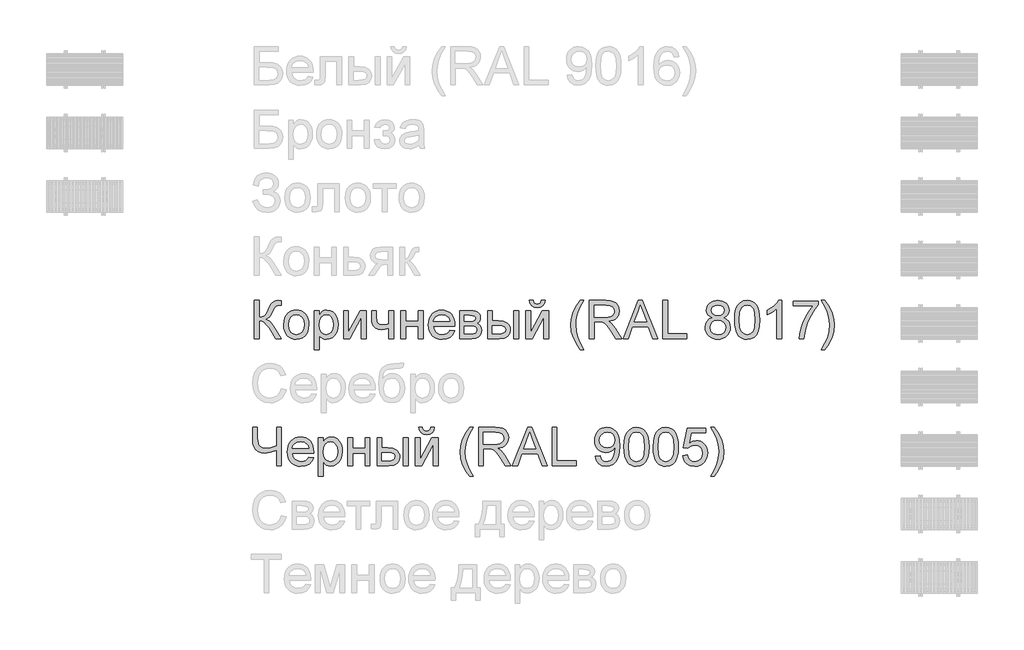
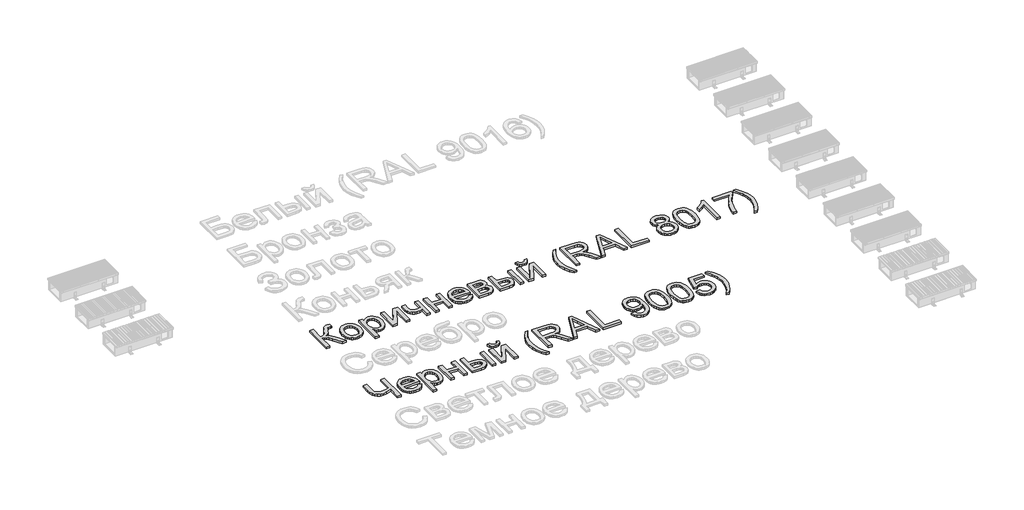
# One storey, part 6 of 12: 2 proxies.
"""IFC4 building model written with IfcOpenShell, lengths in millimetres."""

import ifcopenshell
import ifcopenshell.guid

model = None  # the IFC model being written
_history = None  # IfcOwnerHistory: only IFC2X3 demands one
_inside = {}  # id of a spatial element -> (the spatial element, [elements in it])
_under = {}  # id of a project, library or spatial element -> (it, [spatial elements below it])
_declared = {}  # id of a project -> (the project, [libraries it declares])
_typed = {}  # id of a type object -> (the type object, [elements of that type])
_made_of = {}  # id of a material, layer set ... -> (it, [elements and type objects made of it])


def new_model(schema):
    """Start an empty IFC model of exactly this schema.

    Asked for "IFC4X3", IfcOpenShell would pick the latest addendum, in which some entities
    have other attributes; the version numbers below select the first issue.
    IFC2X3 requires an IfcOwnerHistory on every rooted entity: one is made here for all.
    """
    global model, _history
    if schema == "IFC4X3":
        model = ifcopenshell.file(schema_version=(4, 3, 0, 0))
    else:
        model = ifcopenshell.file(schema=schema)
    _inside.clear()
    _under.clear()
    _declared.clear()
    _typed.clear()
    _made_of.clear()
    _history = None
    if model.schema == "IFC2X3":
        org = make("IfcOrganization", Name="unknown")
        user = make(
            "IfcPersonAndOrganization",
            ThePerson=make("IfcPerson", FamilyName="unknown"),
            TheOrganization=org,
        )
        app = make(
            "IfcApplication",
            ApplicationDeveloper=org,
            Version="unknown",
            ApplicationFullName="unknown",
            ApplicationIdentifier="unknown",
        )
        _history = make(
            "IfcOwnerHistory",
            OwningUser=user,
            OwningApplication=app,
            ChangeAction="ADDED",
            CreationDate=0,
        )
    return model


def make(cls, **values):
    """One entity of the class cls with the attributes given. An attribute that is None is left unset."""
    return model.create_entity(
        cls, **{name: value for name, value in values.items() if value is not None}
    )


def rooted(cls, **values):
    """An entity with a GlobalId (a new one), such as an element, a storey or a relation."""
    return make(cls, GlobalId=ifcopenshell.guid.new(), OwnerHistory=_history, **values)


def si_unit(unit_type, name, prefix=None):
    """IfcSIUnit, for example si_unit("LENGTHUNIT", "METRE", prefix="MILLI")."""
    return make("IfcSIUnit", UnitType=unit_type, Prefix=prefix, Name=name)


def assignment(units):
    """IfcUnitAssignment: the units of a project."""
    return None if units is None else make("IfcUnitAssignment", Units=units)


def point(xyz):
    """IfcCartesianPoint."""
    return None if xyz is None else make("IfcCartesianPoint", Coordinates=xyz)


def direction(xyz):
    """IfcDirection."""
    return None if xyz is None else make("IfcDirection", DirectionRatios=xyz)


def frame(location, z_axis=None, x_axis=None):
    """IfcAxis2Placement3D, a coordinate frame: its origin and axes. An axis left out is left unset."""
    return make(
        "IfcAxis2Placement3D",
        Location=point(location),
        Axis=direction(z_axis),
        RefDirection=direction(x_axis),
    )


def origin():
    """The frame at (0, 0, 0) with its axes left unset."""
    return frame((0.0, 0.0, 0.0))


def origin_with_axes():
    """The frame at (0, 0, 0) with the z axis (0, 0, 1) and the x axis (1, 0, 0) written out."""
    return frame((0.0, 0.0, 0.0), z_axis=(0.0, 0.0, 1.0), x_axis=(1.0, 0.0, 0.0))


def place(relative_to, where):
    """IfcLocalPlacement: puts the frame where relative to a parent placement (None: the world)."""
    return make(
        "IfcLocalPlacement", PlacementRelTo=relative_to, RelativePlacement=where
    )


def context(
    kind, dimensions, precision=None, world=None, true_north=None, identifier=None
):
    """IfcGeometricRepresentationContext, for example the 3D "Model" context."""
    return make(
        "IfcGeometricRepresentationContext",
        ContextIdentifier=identifier,
        ContextType=kind,
        CoordinateSpaceDimension=dimensions,
        Precision=precision,
        WorldCoordinateSystem=world,
        TrueNorth=true_north,
    )


def project(units=None, contexts=None):
    """IfcProject with its units and contexts."""
    return rooted(
        "IfcProject",
        Name="project",
        RepresentationContexts=contexts,
        UnitsInContext=assignment(units),
    )


def spatial(cls, under=None, at=None, **own):
    """A site, building, storey or space (cls), placed at a placement, below another one or the project."""
    s = rooted(cls, ObjectPlacement=at, **own)
    if under is not None:
        _under.setdefault(under.id(), (under, []))[1].append(s)
    return s


def polyline(points):
    """IfcPolyline through the points."""
    return make("IfcPolyline", Points=[point(p) for p in points])


def outline(outer, holes=None, kind="AREA"):
    """IfcArbitraryClosedProfileDef: a profile drawn as a closed curve; with holes, ...WithVoids."""
    if holes is None:
        return make("IfcArbitraryClosedProfileDef", ProfileType=kind, OuterCurve=outer)
    return make(
        "IfcArbitraryProfileDefWithVoids",
        ProfileType=kind,
        OuterCurve=outer,
        InnerCurves=holes,
    )


def extrude(swept, where, along, depth):
    """IfcExtrudedAreaSolid: the profile swept, set in the frame where, extruded along a direction by depth."""
    return make(
        "IfcExtrudedAreaSolid",
        SweptArea=swept,
        Position=where,
        ExtrudedDirection=direction(along),
        Depth=depth,
    )


def shape(context_of_items, identifier, shape_type, items):
    """IfcShapeRepresentation: the items that make up one representation, for example the "Body"."""
    return make(
        "IfcShapeRepresentation",
        ContextOfItems=context_of_items,
        RepresentationIdentifier=identifier,
        RepresentationType=shape_type,
        Items=items,
    )


def made_of(thing, what):
    """Note that an element or type object is made of a material, layer set ...; save() writes the relation."""
    if what is not None:
        _made_of.setdefault(what.id(), (what, []))[1].append(thing)
    return thing


def element(
    cls,
    number,
    at=None,
    inside=None,
    cuts=None,
    type_object=None,
    material=None,
    context=None,
    identifier="Body",
    shape_type=None,
    held_by="IfcProductDefinitionShape",
    body=None,
    shapes=None,
    **own,
):
    """One element of the class cls, such as IfcWall. Its Tag is "e" and its number.

    at: its placement. inside: the storey or other place that contains it. cuts: it is an
    opening in that element (IfcRelVoidsElement). A single representation is given by context,
    identifier, shape_type and body (its items); several are given by shapes. held_by: the class
    of the entity that holds the representations. save() writes the other relations.
    """
    e = rooted(cls, Tag="e%d" % number, ObjectPlacement=at, **own)
    if body is not None:
        shapes = [shape(context, identifier, shape_type, body)]
    if shapes is not None:
        e.Representation = make(held_by, Representations=shapes)
    if inside is not None:
        _inside.setdefault(inside.id(), (inside, []))[1].append(e)
    if cuts is not None:
        rooted(
            "IfcRelVoidsElement", RelatingBuildingElement=cuts, RelatedOpeningElement=e
        )
    if type_object is not None:
        _typed.setdefault(type_object.id(), (type_object, []))[1].append(e)
    return made_of(e, material)


def aggregate(whole, parts):
    """IfcRelAggregates: a whole, such as a stair, and the parts it consists of."""
    return rooted("IfcRelAggregates", RelatingObject=whole, RelatedObjects=parts)


def save(model, path):
    """Write the relations noted so far, then the file.

    IfcRelAggregates (storeys below a building ...), IfcRelContainedInSpatialStructure (elements
    in a storey), IfcRelDefinesByType, IfcRelAssociatesMaterial and IfcRelDeclares: one each for
    every whole, place, type object, material and project.
    """
    for whole, parts in _under.values():
        aggregate(whole, parts)
    for where, things in _inside.values():
        rooted(
            "IfcRelContainedInSpatialStructure",
            RelatedElements=things,
            RelatingStructure=where,
        )
    for kind, things in _typed.values():
        rooted("IfcRelDefinesByType", RelatedObjects=things, RelatingType=kind)
    for what, things in _made_of.values():
        rooted("IfcRelAssociatesMaterial", RelatedObjects=things, RelatingMaterial=what)
    for by, libraries in _declared.values():
        rooted("IfcRelDeclares", RelatingContext=by, RelatedDefinitions=libraries)
    model.write(path)


model = new_model("IFC4")

# Units and contexts
model_context = context("Model", 3, world=origin())
ifc_project = project(units=[si_unit("LENGTHUNIT", "METRE", prefix="MILLI")], contexts=[model_context])

# Site, building, storey
site = spatial("IfcSite", under=ifc_project)
building = spatial("IfcBuilding", under=site)
storey = spatial("IfcBuildingStorey", under=building, Name="Уровень 1", Elevation=0.0)

# Proxies
placement = place(None, origin())
element("IfcBuildingElementProxy", 1, Name="300", ObjectType="300", at=placement, inside=storey, context=model_context, shape_type="SweptSolid", body=[
    extrude(outline(polyline([(7102.1636245, -14613.7438159), (7139.8347408, -14613.7438159), (7139.8347408, -14745.592723), (7165.3381601, -14743.1003225), (7181.9572292, -14735.6231209), (7195.3941191, -14718.0291645), (7211.3510007, -14685.1864994), (7232.1363334, -14643.0640109), (7242.1611178, -14631.650472), (7255.6807811, -14622.2051018), (7271.7296331, -14615.8591374), (7289.3419836, -14613.7438159), (7314.0636537, -14614.1852743), (7314.0636537, -14651.8563906), (7305.7495206, -14651.6356614), (7297.4353875, -14651.4149322), (7280.181722, -14653.6774065), (7268.0048279, -14660.4648293), (7257.5201911, -14674.7202566), (7245.6376026, -14699.2395916), (7231.0602786, -14729.7737972), (7218.966158, -14746.4756398), (7192.9569009, -14762.0738364), (7207.5480205, -14768.2818451), (7222.0379726, -14779.1067728), (7250.7143741, -14814.6073853), (7314.0636537, -14915.1127464), (7270.3592727, -14915.1127464), (7216.7956542, -14830.2055819), (7196.111489, -14802.9731172), (7179.0877497, -14785.8758015), (7161.6777343, -14776.8534955), (7139.8347408, -14773.8460602), (7139.8347408, -14915.1127464), (7102.1636245, -14915.1127464), (7102.1636245, -14613.7438159)])), origin_with_axes(), (0.0, 0.0, 1.0), 20.0),
    extrude(outline(polyline([(7332.8992119, -14804.4538422), (7334.9363584, -14775.7912363), (7341.0477981, -14751.0925588), (7351.2335308, -14730.3578099), (7365.4935566, -14713.5869894), (7379.8501515, -14702.8678278), (7395.6966684, -14695.2112838), (7413.0331075, -14690.6173573), (7431.8594686, -14689.0860485), (7452.642502, -14690.9507504), (7471.4343742, -14696.544856), (7488.2350851, -14705.8683653), (7503.0446346, -14718.9212784), (7515.1318574, -14735.2621367), (7523.765588, -14754.449482), (7528.9458264, -14776.4833143), (7530.6725725, -14801.3636335), (7527.6191519, -14839.4210259), (7518.4588902, -14868.391733), (7503.4585019, -14890.0875737), (7482.8847013, -14906.3203667), (7458.4481398, -14916.4463186), (7431.8594686, -14919.8216359), (7410.7729325, -14917.9638318), (7391.8063163, -14912.3904196), (7374.9596202, -14903.1013992), (7360.2328441, -14890.0967707), (7348.27438, -14873.5972632), (7339.7326199, -14853.823606), (7334.6075639, -14830.775799), (7332.8992119, -14804.4538422)]), holes=[polyline([(7370.5703282, -14804.3802658), (7374.9297298, -14838.4737297), (7388.0079347, -14862.7631385), (7407.6896215, -14877.3036743), (7431.8594686, -14882.1505196), (7455.9189511, -14877.2760832), (7475.5638496, -14862.6527739), (7488.6420545, -14838.0414684), (7493.0014562, -14803.2030434), (7488.6144634, -14770.1028609), (7475.453485, -14746.144546), (7455.7809953, -14731.6040101), (7431.8594686, -14726.7571648), (7407.6896215, -14731.585616), (7388.0079347, -14746.0709696), (7374.9297298, -14770.305196), (7370.5703282, -14804.3802658)])]), origin_with_axes(), (0.0, 0.0, 1.0), 20.0),
    extrude(outline(polyline([(7573.0525783, -14999.8727581), (7573.0525783, -14693.7949381), (7610.7236946, -14693.7949381), (7610.7236946, -14730.7302904), (7623.0109533, -14712.5109346), (7636.7697399, -14699.497109), (7652.8093949, -14691.6888137), (7671.9392586, -14689.0860485), (7697.4150868, -14692.7280803), (7719.6903416, -14703.6541756), (7737.826924, -14721.2021467), (7750.8867348, -14744.7098062), (7758.7778036, -14772.4665028), (7761.4081598, -14802.7615851), (7758.4375127, -14834.9788508), (7749.5255714, -14863.7932081), (7734.9574444, -14887.7423259), (7715.0182403, -14905.3638735), (7691.7956893, -14916.2071953), (7667.3775219, -14919.8216359), (7650.059477, -14917.4028118), (7634.5992361, -14910.1463394), (7621.3646813, -14899.192653), (7610.7236946, -14885.6821868), (7610.7236946, -14999.8727581), (7573.0525783, -14999.8727581)]), holes=[polyline([(7610.7236946, -14806.2196758), (7614.7979877, -14839.991243), (7627.020867, -14863.6092671), (7645.0562818, -14877.5152065), (7666.5681815, -14882.1505196), (7688.4295691, -14877.3496596), (7706.9248364, -14862.9470795), (7719.5339917, -14838.4645327), (7723.7370435, -14803.4237726), (7719.6351593, -14769.8361465), (7707.3295066, -14745.8870286), (7689.3216829, -14731.5396308), (7668.1132859, -14726.7571648), (7646.8221154, -14731.8431334), (7628.124513, -14747.1010392), (7615.0738992, -14772.0526355), (7610.7236946, -14806.2196758)])]), origin_with_axes(), (0.0, 0.0, 1.0), 20.0),
    extrude(outline(polyline([(7803.7881657, -14693.7949381), (7841.459282, -14693.7949381), (7841.459282, -14862.5791975), (7934.018392, -14693.7949381), (7982.7259681, -14693.7949381), (7982.7259681, -14915.1127464), (7945.0548518, -14915.1127464), (7945.0548518, -14747.3585566), (7853.084353, -14915.1127464), (7803.7881657, -14915.1127464), (7803.7881657, -14693.7949381)])), origin_with_axes(), (0.0, 0.0, 1.0), 20.0),
    extrude(outline(polyline([(8025.105974, -14693.7949381), (8062.7770903, -14693.7949381), (8062.7770903, -14736.2485203), (8065.8305109, -14776.0533522), (8071.026844, -14787.623241), (8080.5090025, -14797.6112371), (8093.6056015, -14804.5090245), (8109.6452565, -14806.808287), (8132.6930635, -14803.9572015), (8161.6637706, -14795.4039451), (8161.6637706, -14693.7949381), (8199.3348869, -14693.7949381), (8199.3348869, -14915.1127464), (8161.6637706, -14915.1127464), (8161.6637706, -14831.5299571), (8129.5108842, -14841.2420417), (8099.5652898, -14844.4794033), (8076.7841973, -14841.104086), (8056.8541902, -14830.9781341), (8041.3203729, -14815.9593516), (8031.7278499, -14797.9055427), (8026.761443, -14777.3593333), (8025.105974, -14754.8633493), (8025.105974, -14693.7949381)])), origin_with_axes(), (0.0, 0.0, 1.0), 20.0),
    extrude(outline(polyline([(8255.8415614, -14693.7949381), (8293.5126777, -14693.7949381), (8293.5126777, -14778.5549498), (8392.399358, -14778.5549498), (8392.399358, -14693.7949381), (8430.0704743, -14693.7949381), (8430.0704743, -14915.1127464), (8392.399358, -14915.1127464), (8392.399358, -14816.2260661), (8293.5126777, -14816.2260661), (8293.5126777, -14915.1127464), (8255.8415614, -14915.1127464), (8255.8415614, -14693.7949381)])), origin_with_axes(), (0.0, 0.0, 1.0), 20.0),
    extrude(outline(polyline([(8641.5290451, -14849.1882928), (8678.4643974, -14853.8971824), (8665.1562662, -14881.7274553), (8643.9202781, -14902.5311821), (8615.2346795, -14915.4990225), (8579.5777171, -14919.8216359), (8556.2034149, -14917.9569341), (8535.3766954, -14912.3628285), (8517.0975588, -14903.0393192), (8501.3660049, -14889.9864061), (8488.7154628, -14873.5673728), (8479.6793613, -14854.1455027), (8474.2577004, -14831.7207959), (8472.4504801, -14806.2932522), (8474.2760945, -14780.0034851), (8479.7529377, -14756.831518), (8488.8810097, -14736.7773507), (8501.6603105, -14719.8409833), (8517.3504776, -14706.3856994), (8535.2111485, -14696.7747822), (8555.2423231, -14691.008232), (8577.4440015, -14689.0860485), (8598.9306093, -14691.0036334), (8618.3616765, -14696.7563881), (8635.7372029, -14706.3443126), (8651.0571888, -14719.7674069), (8663.5628774, -14736.6669861), (8672.4955121, -14756.6843652), (8677.8550929, -14779.8195441), (8679.6416198, -14806.072523), (8679.4208906, -14816.2260661), (8510.1215964, -14816.2260661), (8516.6423048, -14844.424221), (8531.7898459, -14865.1543714), (8553.6512335, -14877.9014826), (8580.3134811, -14882.1505196), (8600.3630498, -14880.1823509), (8617.2488334, -14874.2778449), (8630.9708318, -14864.0691195), (8641.5290451, -14849.1882928)]), holes=[polyline([(8510.1215964, -14778.5549498), (8641.9705035, -14778.5549498), (8636.8753379, -14758.6525338), (8626.8873417, -14744.4155006), (8604.9247866, -14731.1717488), (8577.2968488, -14726.7571648), (8551.903794, -14730.279635), (8530.9069292, -14740.8470453), (8516.311211, -14757.3189616), (8510.1215964, -14778.5549498)])]), origin_with_axes(), (0.0, 0.0, 1.0), 20.0),
    extrude(outline(polyline([(8717.3127361, -14693.7949381), (8800.3069142, -14693.7949381), (8826.9875559, -14695.0549339), (8845.813917, -14698.8349214), (8859.6646741, -14705.9718321), (8871.4185039, -14717.3025976), (8879.4475284, -14732.0638626), (8882.12387, -14749.4922722), (8880.5051892, -14763.5361673), (8875.6491468, -14775.648682), (8867.5373488, -14785.8849985), (8856.1514011, -14794.3002992), (8870.0941287, -14802.1269886), (8881.4616824, -14814.7177499), (8889.0216574, -14831.0793016), (8891.541649, -14850.2183624), (8885.1588964, -14878.9315522), (8869.9837641, -14899.1466678), (8845.9610698, -14911.1212267), (8813.0356313, -14915.1127464), (8717.3127361, -14915.1127464), (8717.3127361, -14693.7949381)]), holes=[polyline([(8754.9838524, -14778.5549498), (8792.2135103, -14778.5549498), (8822.9316569, -14776.6419634), (8837.8676659, -14768.9900179), (8842.8064817, -14762.6624476), (8844.4527536, -14755.1576549), (8841.56488, -14743.9188599), (8832.901259, -14736.6899787), (8817.2478801, -14732.7720355), (8793.3907327, -14731.4660544), (8754.9838524, -14731.4660544), (8754.9838524, -14778.5549498)]), polyline([(8754.9838524, -14877.4416301), (8801.189831, -14877.4416301), (8826.3713536, -14875.7401758), (8842.1718853, -14870.6358132), (8850.6515653, -14861.3559898), (8853.8705327, -14847.1281537), (8852.261049, -14837.7011775), (8847.4325978, -14828.9915713), (8840.0197756, -14822.1765573), (8830.6571788, -14818.433358), (8797.5110111, -14816.2260661), (8754.9838524, -14816.2260661), (8754.9838524, -14877.4416301)])]), origin_with_axes(), (0.0, 0.0, 1.0), 20.0),
    extrude(outline(polyline([(9145.8216841, -14693.7949381), (9183.4928004, -14693.7949381), (9183.4928004, -14915.1127464), (9145.8216841, -14915.1127464), (9145.8216841, -14693.7949381)])), origin_with_axes(), (0.0, 0.0, 1.0), 20.0),
    extrude(outline(polyline([(8938.6305444, -14693.7949381), (8976.3016607, -14693.7949381), (8976.3016607, -14773.8460602), (9022.8755213, -14773.8460602), (9063.1310086, -14778.5641468), (9079.3477068, -14784.4617551), (9092.9570414, -14792.7184066), (9103.7244875, -14803.0489929), (9111.4155205, -14815.1684053), (9116.0301403, -14829.076644), (9117.5683469, -14844.7737089), (9112.4088019, -14871.7302621), (9096.9301669, -14894.4745665), (9085.0682719, -14903.5037702), (9070.1207665, -14909.9532014), (9030.9689252, -14915.1127464), (8938.6305444, -14915.1127464), (8938.6305444, -14693.7949381)]), holes=[polyline([(8976.3016607, -14877.4416301), (9015.0028466, -14877.4416301), (9045.0036233, -14875.4642644), (9064.9612216, -14869.5321672), (9076.1632283, -14859.4062153), (9079.8972306, -14844.8472853), (9077.1289185, -14832.5416326), (9068.8239825, -14821.6707196), (9051.0644792, -14814.0555623), (9019.9324653, -14811.5171765), (8976.3016607, -14811.5171765), (8976.3016607, -14877.4416301)])]), origin_with_axes(), (0.0, 0.0, 1.0), 20.0),
    extrude(outline(polyline([(9239.9994749, -14693.7949381), (9277.6705912, -14693.7949381), (9277.6705912, -14862.5791975), (9370.2297012, -14693.7949381), (9418.9372773, -14693.7949381), (9418.9372773, -14915.1127464), (9381.266161, -14915.1127464), (9381.266161, -14747.3585566), (9289.2956622, -14915.1127464), (9239.9994749, -14915.1127464), (9239.9994749, -14693.7949381)])), origin_with_axes(), (0.0, 0.0, 1.0), 20.0),
    extrude(outline(polyline([(9362.4306029, -14613.7438159), (9390.6839401, -14613.7438159), (9384.6046901, -14637.8676778), (9372.4002049, -14655.6455752), (9354.6223075, -14666.5992616), (9331.8228209, -14670.2504904), (9307.0827567, -14666.6268527), (9287.8977106, -14655.7559398), (9274.7827175, -14638.0056335), (9268.2528121, -14613.7438159), (9296.5061493, -14613.7438159), (9300.4792749, -14626.1506362), (9307.1011508, -14634.9706071), (9316.4085653, -14640.2405166), (9328.4383065, -14641.9971532), (9342.0131521, -14640.2956989), (9351.8356014, -14635.1913363), (9358.4574773, -14626.4265477), (9362.4306029, -14613.7438159)])), origin_with_axes(), (0.0, 0.0, 1.0), 20.0),
    extrude(outline(polyline([(9668.5084228, -14999.8727581), (9639.3169865, -14958.9090979), (9615.0183807, -14911.5075028), (9598.6292379, -14859.9672353), (9593.1661902, -14806.5875578), (9597.2496804, -14759.7745739), (9609.5001508, -14714.984941), (9633.8171507, -14664.2540139), (9668.5084228, -14613.7438159), (9696.7617601, -14613.7438159), (9661.5186649, -14673.4142755), (9640.328662, -14731.2453252), (9633.2101454, -14768.9348356), (9630.8373065, -14806.808287), (9634.9575849, -14855.1019959), (9647.3184199, -14903.3773107), (9667.9198117, -14951.6342315), (9696.7617601, -14999.8727581), (9668.5084228, -14999.8727581)])), origin_with_axes(), (0.0, 0.0, 1.0), 20.0),
    extrude(outline(polyline([(9739.1417659, -14915.1127464), (9739.1417659, -14613.7438159), (9869.0041102, -14613.7438159), (9903.9069145, -14615.776364), (9929.2999692, -14621.874008), (9947.8596159, -14633.1311971), (9962.262196, -14650.64238), (9971.5052311, -14672.3566148), (9974.5862428, -14696.2229593), (9969.4818801, -14725.9110363), (9954.1687921, -14750.5223417), (9942.5690129, -14760.5517246), (9928.1871262, -14768.5669536), (9891.0770299, -14778.5549498), (9912.487762, -14794.6681812), (9943.0219676, -14833.4429435), (9993.2746482, -14915.1127464), (9949.4966908, -14915.1127464), (9910.2804701, -14852.6463836), (9881.9535564, -14811.2964473), (9862.0511405, -14791.7619134), (9844.1352873, -14784.5882145), (9822.2830968, -14783.2638393), (9776.8128822, -14783.2638393), (9776.8128822, -14915.1127464), (9739.1417659, -14915.1127464)]), holes=[polyline([(9776.8128822, -14745.592723), (9861.1314355, -14745.592723), (9885.3472679, -14744.2591508), (9904.1368408, -14740.2584341), (9918.2819035, -14733.3238585), (9928.5642052, -14723.1887095), (9934.8273962, -14710.929042), (9936.9151265, -14697.6209108), (9932.9328039, -14679.2452052), (9920.9858361, -14664.4379549), (9900.4304297, -14654.6706879), (9870.622791, -14651.4149322), (9776.8128822, -14651.4149322), (9776.8128822, -14745.592723)])]), origin_with_axes(), (0.0, 0.0, 1.0), 20.0),
    extrude(outline(polyline([(10005.414754, -14915.1127464), (10125.7121664, -14613.7438159), (10157.7914764, -14613.7438159), (10278.0888889, -14915.1127464), (10238.284057, -14915.1127464), (10203.7767258, -14820.9349556), (10079.6533407, -14820.9349556), (10045.2195859, -14915.1127464), (10005.414754, -14915.1127464)]), holes=[polyline([(10093.4857037, -14783.2638393), (10190.0179392, -14783.2638393), (10162.868248, -14709.1724055), (10141.7518214, -14651.4149322), (10122.9898397, -14702.6976824), (10093.4857037, -14783.2638393)])]), origin_with_axes(), (0.0, 0.0, 1.0), 20.0),
    extrude(outline(polyline([(10318.3351791, -14915.1127464), (10318.3351791, -14613.7438159), (10356.0062954, -14613.7438159), (10356.0062954, -14877.4416301), (10506.6907607, -14877.4416301), (10506.6907607, -14915.1127464), (10318.3351791, -14915.1127464)])), origin_with_axes(), (0.0, 0.0, 1.0), 20.0),
    extrude(outline(polyline([(10707.55433, -14749.1243902), (10687.3851996, -14739.1915763), (10673.2309399, -14725.7270953), (10664.8708215, -14709.0068586), (10662.0841154, -14689.3067777), (10663.6016286, -14673.9431059), (10668.1541683, -14659.857824), (10675.7417345, -14647.0509321), (10686.3643271, -14635.52243), (10699.5115099, -14625.9942864), (10714.6728466, -14619.1884695), (10751.0379819, -14613.7438159), (10787.6238463, -14619.3172282), (10802.9507299, -14626.2839934), (10816.3002478, -14636.0374648), (10827.1159785, -14647.7912946), (10834.8415004, -14660.7591349), (10839.4768135, -14674.9409858), (10841.0219179, -14690.3368473), (10838.272, -14709.4023317), (10830.0222462, -14725.8374599), (10816.1806861, -14739.2191674), (10796.6553493, -14749.1243902), (10819.841112, -14761.0713579), (10836.7176985, -14778.6653144), (10847.0091973, -14801.0601308), (10850.4396969, -14827.4096787), (10848.7382427, -14846.1992516), (10843.63388, -14863.4253261), (10835.1266089, -14879.087902), (10823.2164293, -14893.1869795), (10808.5287406, -14904.8396417), (10791.6889423, -14913.1629718), (10772.6970343, -14918.1569699), (10751.5530166, -14919.8216359), (10730.408999, -14918.1500721), (10711.417091, -14913.1353807), (10694.5772926, -14904.7775616), (10679.889604, -14893.0766149), (10667.9794244, -14878.8786691), (10659.4721533, -14863.0298529), (10654.3677906, -14845.5301663), (10652.6663363, -14826.3796091), (10656.2347917, -14799.0091887), (10666.9401578, -14776.4948106), (10684.2306115, -14759.609027), (10707.55433, -14749.1243902)]), holes=[polyline([(10699.7552317, -14690.4104237), (10703.0937608, -14706.8547489), (10713.1093481, -14719.9881361), (10729.5076881, -14728.5965748), (10751.994475, -14731.4660544), (10773.9570302, -14728.6149689), (10790.1070497, -14720.0617125), (10800.0398636, -14707.3697837), (10803.3508016, -14692.1026809), (10799.929499, -14676.256164), (10789.6655913, -14663.1503679), (10773.2948426, -14654.3487911), (10751.5530166, -14651.4149322), (10729.673235, -14654.2844118), (10713.3300773, -14662.8928505), (10703.1489431, -14675.5112029), (10699.7552317, -14690.4104237)]), polyline([(10690.3374526, -14825.055234), (10696.6282348, -14853.4189358), (10705.337841, -14865.5866328), (10718.8850955, -14874.6457269), (10735.1086915, -14880.2743214), (10751.8473222, -14882.1505196), (10777.4886973, -14878.2049852), (10796.7289257, -14866.368382), (10808.7586669, -14848.4433318), (10812.7685806, -14826.2324563), (10808.6299082, -14803.6445018), (10796.2138909, -14785.3239785), (10776.5322041, -14773.1838726), (10750.5965235, -14769.1371707), (10725.3138333, -14773.1286903), (10706.266743, -14785.1032493), (10694.3197752, -14803.0742847), (10690.3374526, -14825.055234)])]), origin_with_axes(), (0.0, 0.0, 1.0), 20.0),
    extrude(outline(polyline([(10883.4019237, -14766.8563023), (10886.1702357, -14718.6177757), (10894.4751718, -14680.1465161), (10908.2339584, -14650.8539122), (10927.3638221, -14630.1513529), (10952.0027188, -14617.8457002), (10982.288604, -14613.7438159), (11005.5019579, -14616.1718371), (11026.2872906, -14623.4559006), (11043.6697149, -14635.3108979), (11056.6743434, -14651.4517204), (11066.4967927, -14671.7404125), (11074.3326792, -14696.0390183), (11079.464633, -14726.8951206), (11081.1752843, -14766.8563023), (11078.4345635, -14814.8189174), (11070.2124009, -14853.1982066), (11056.5363877, -14882.5184016), (11037.4341151, -14903.3037343), (11012.7400362, -14915.6921605), (10982.288604, -14919.8216359), (10961.5400595, -14918.0282112), (10943.1459597, -14912.647937), (10927.1063047, -14903.6808134), (10913.4210945, -14891.1268403), (10900.2877073, -14868.4331197), (10890.9067164, -14840.1567899), (10885.2781219, -14806.2978507), (10883.4019237, -14766.8563023)]), holes=[polyline([(10921.07304, -14766.7827259), (10925.487624, -14826.0393183), (10931.0058539, -14846.307317), (10938.7313758, -14860.3351173), (10958.4498507, -14876.696669), (10982.288604, -14882.1505196), (11006.1273573, -14876.6782749), (11025.8458322, -14860.2615409), (11033.5713541, -14846.2107479), (11039.0895841, -14825.9473478), (11043.504168, -14766.7827259), (11039.2367369, -14708.8597058), (11033.9024479, -14688.6583857), (11026.4344434, -14674.2971923), (11006.7527567, -14657.1354973), (10981.8471456, -14651.4149322), (10958.2659097, -14656.4549156), (10939.319987, -14671.5748656), (10931.3369477, -14687.2098504), (10925.6347768, -14708.2894887), (10921.07304, -14766.7827259)])]), origin_with_axes(), (0.0, 0.0, 1.0), 20.0),
    extrude(outline(polyline([(11255.4041972, -14915.1127464), (11217.7330809, -14915.1127464), (11217.7330809, -14680.2568807), (11182.0485274, -14705.6775265), (11142.3908483, -14724.6970257), (11142.3908483, -14689.0860485), (11171.9777578, -14672.9912113), (11197.6099358, -14653.8429534), (11217.8158544, -14633.480685), (11231.1239856, -14613.7438159), (11255.4041972, -14613.7438159), (11255.4041972, -14915.1127464)])), origin_with_axes(), (0.0, 0.0, 1.0), 20.0),
    extrude(outline(polyline([(11344.8730985, -14656.1238218), (11344.8730985, -14618.4527055), (11542.6464591, -14618.4527055), (11542.6464591, -14648.9133347), (11514.4575012, -14684.5886912), (11486.5444548, -14729.9577382), (11461.9239523, -14780.8818034), (11443.612626, -14833.2222143), (11434.6363053, -14872.3832526), (11429.6331102, -14915.1127464), (11391.9619938, -14915.1127464), (11396.0362869, -14876.2828018), (11406.9347911, -14830.1320055), (11424.3632006, -14781.2128972), (11448.0272099, -14734.0780166), (11475.6551478, -14691.4680845), (11504.9753428, -14656.1238218), (11344.8730985, -14656.1238218)])), origin_with_axes(), (0.0, 0.0, 1.0), 20.0),
    extrude(outline(polyline([(11594.444244, -14999.8727581), (11566.1909068, -14999.8727581), (11595.0328552, -14951.6342315), (11615.6342469, -14903.3773107), (11627.995082, -14855.1019959), (11632.1153603, -14806.808287), (11629.7425214, -14769.2107471), (11622.6240048, -14731.9075128), (11613.62929, -14702.3481945), (11601.6547311, -14674.0028867), (11566.1909068, -14613.7438159), (11594.444244, -14613.7438159), (11629.1355161, -14664.2540139), (11653.452516, -14714.984941), (11665.7029865, -14759.7745739), (11669.7864766, -14806.5875578), (11664.2958378, -14859.9672353), (11647.8239215, -14911.5075028), (11623.4977246, -14958.9090979), (11594.444244, -14999.8727581)])), origin_with_axes(), (0.0, 0.0, 1.0), 20.0),
])
element("IfcBuildingElementProxy", 2, Name="300", ObjectType="300", at=placement, inside=storey, context=model_context, shape_type="SweptSolid", body=[
    extrude(outline(polyline([(7314.0636537, -15915.1127464), (7276.3925374, -15915.1127464), (7276.3925374, -15794.447452), (7226.4341625, -15810.7814125), (7183.0976634, -15816.2260661), (7153.7314832, -15812.5012609), (7128.0257288, -15801.3268453), (7108.1049187, -15784.4226676), (7096.0935716, -15763.5085762), (7090.0511098, -15737.0486637), (7088.0369559, -15703.5070228), (7088.0369559, -15613.7438159), (7125.7080722, -15613.7438159), (7125.7080722, -15698.4302512), (7130.2330207, -15739.1639851), (7135.8892064, -15753.2193766), (7143.8078663, -15763.0671178), (7163.7286764, -15774.6829918), (7187.2915182, -15778.5549498), (7230.7567759, -15773.8828484), (7276.3925374, -15759.8665444), (7276.3925374, -15613.7438159), (7314.0636537, -15613.7438159), (7314.0636537, -15915.1127464)])), origin_with_axes(), (0.0, 0.0, 1.0), 20.0),
    extrude(outline(polyline([(7530.2311141, -15849.1882928), (7567.1664664, -15853.8971824), (7553.8583352, -15881.7274553), (7532.622347, -15902.5311821), (7503.9367485, -15915.4990225), (7468.2797861, -15919.8216359), (7444.9054838, -15917.9569341), (7424.0787644, -15912.3628285), (7405.7996277, -15903.0393192), (7390.0680739, -15889.9864061), (7377.4175318, -15873.5673728), (7368.3814303, -15854.1455027), (7362.9597694, -15831.7207959), (7361.1525491, -15806.2932522), (7362.9781635, -15780.0034851), (7368.4550067, -15756.831518), (7377.5830787, -15736.7773507), (7390.3623795, -15719.8409833), (7406.0525466, -15706.3856994), (7423.9132175, -15696.7747822), (7443.9443921, -15691.008232), (7466.1460705, -15689.0860485), (7487.6326783, -15691.0036334), (7507.0637454, -15696.7563881), (7524.4392719, -15706.3443126), (7539.7592578, -15719.7674069), (7552.2649463, -15736.6669861), (7561.197581, -15756.6843652), (7566.5571618, -15779.8195441), (7568.3436888, -15806.072523), (7568.1229596, -15816.2260661), (7398.8236654, -15816.2260661), (7405.3443738, -15844.424221), (7420.4919149, -15865.1543714), (7442.3533025, -15877.9014826), (7469.0155501, -15882.1505196), (7489.0651188, -15880.1823509), (7505.9509024, -15874.2778449), (7519.6729008, -15864.0691195), (7530.2311141, -15849.1882928)]), holes=[polyline([(7398.8236654, -15778.5549498), (7530.6725725, -15778.5549498), (7525.5774068, -15758.6525338), (7515.5894107, -15744.4155006), (7493.6268556, -15731.1717488), (7465.9989177, -15726.7571648), (7440.605863, -15730.279635), (7419.6089981, -15740.8470453), (7405.01328, -15757.3189616), (7398.8236654, -15778.5549498)])]), origin_with_axes(), (0.0, 0.0, 1.0), 20.0),
    extrude(outline(polyline([(7606.0148051, -15999.8727581), (7606.0148051, -15693.7949381), (7643.6859214, -15693.7949381), (7643.6859214, -15730.7302904), (7655.97318, -15712.5109346), (7669.7319666, -15699.497109), (7685.7716216, -15691.6888137), (7704.9014854, -15689.0860485), (7730.3773136, -15692.7280803), (7752.6525684, -15703.6541756), (7770.7891507, -15721.2021467), (7783.8489616, -15744.7098062), (7791.7400304, -15772.4665028), (7794.3703866, -15802.7615851), (7791.3997395, -15834.9788508), (7782.4877982, -15863.7932081), (7767.9196712, -15887.7423259), (7747.980467, -15905.3638735), (7724.7579161, -15916.2071953), (7700.3397486, -15919.8216359), (7683.0217037, -15917.4028118), (7667.5614629, -15910.1463394), (7654.3269081, -15899.192653), (7643.6859214, -15885.6821868), (7643.6859214, -15999.8727581), (7606.0148051, -15999.8727581)]), holes=[polyline([(7643.6859214, -15806.2196758), (7647.7602145, -15839.991243), (7659.9830938, -15863.6092671), (7678.0185086, -15877.5152065), (7699.5304083, -15882.1505196), (7721.3917958, -15877.3496596), (7739.8870631, -15862.9470795), (7752.4962185, -15838.4645327), (7756.6992703, -15803.4237726), (7752.5973861, -15769.8361465), (7740.2917333, -15745.8870286), (7722.2839097, -15731.5396308), (7701.0755126, -15726.7571648), (7679.7843422, -15731.8431334), (7661.0867398, -15747.1010392), (7648.036126, -15772.0526355), (7643.6859214, -15806.2196758)])]), origin_with_axes(), (0.0, 0.0, 1.0), 20.0),
    extrude(outline(polyline([(7836.7503925, -15693.7949381), (7874.4215088, -15693.7949381), (7874.4215088, -15778.5549498), (7973.3081891, -15778.5549498), (7973.3081891, -15693.7949381), (8010.9793054, -15693.7949381), (8010.9793054, -15915.1127464), (7973.3081891, -15915.1127464), (7973.3081891, -15816.2260661), (7874.4215088, -15816.2260661), (7874.4215088, -15915.1127464), (7836.7503925, -15915.1127464), (7836.7503925, -15693.7949381)])), origin_with_axes(), (0.0, 0.0, 1.0), 20.0),
    extrude(outline(polyline([(8274.6771195, -15693.7949381), (8312.3482358, -15693.7949381), (8312.3482358, -15915.1127464), (8274.6771195, -15915.1127464), (8274.6771195, -15693.7949381)])), origin_with_axes(), (0.0, 0.0, 1.0), 20.0),
    extrude(outline(polyline([(8067.4859798, -15693.7949381), (8105.1570961, -15693.7949381), (8105.1570961, -15773.8460602), (8151.7309567, -15773.8460602), (8191.9864441, -15778.5641468), (8208.2031423, -15784.4617551), (8221.8124768, -15792.7184066), (8232.579923, -15803.0489929), (8240.2709559, -15815.1684053), (8244.8855757, -15829.076644), (8246.4237823, -15844.7737089), (8241.2642373, -15871.7302621), (8225.7856024, -15894.4745665), (8213.9237073, -15903.5037702), (8198.976202, -15909.9532014), (8159.8243606, -15915.1127464), (8067.4859798, -15915.1127464), (8067.4859798, -15693.7949381)]), holes=[polyline([(8105.1570961, -15877.4416301), (8143.858282, -15877.4416301), (8173.8590587, -15875.4642644), (8193.816657, -15869.5321672), (8205.0186637, -15859.4062153), (8208.752666, -15844.8472853), (8205.984354, -15832.5416326), (8197.6794179, -15821.6707196), (8179.9199146, -15814.0555623), (8148.7879008, -15811.5171765), (8105.1570961, -15811.5171765), (8105.1570961, -15877.4416301)])]), origin_with_axes(), (0.0, 0.0, 1.0), 20.0),
    extrude(outline(polyline([(8491.2860383, -15613.7438159), (8519.5393755, -15613.7438159), (8513.4601255, -15637.8676778), (8501.2556403, -15655.6455752), (8483.4777429, -15666.5992616), (8460.6782563, -15670.2504904), (8435.9381921, -15666.6268527), (8416.7531461, -15655.7559398), (8403.6381529, -15638.0056335), (8397.1082475, -15613.7438159), (8425.3615847, -15613.7438159), (8429.3347103, -15626.1506362), (8435.9565862, -15634.9706071), (8445.2640007, -15640.2405166), (8457.2937419, -15641.9971532), (8470.8685875, -15640.2956989), (8480.6910368, -15635.1913363), (8487.3129127, -15626.4265477), (8491.2860383, -15613.7438159)])), origin_with_axes(), (0.0, 0.0, 1.0), 20.0),
    extrude(outline(polyline([(8368.8549103, -15693.7949381), (8406.5260266, -15693.7949381), (8406.5260266, -15862.5791975), (8499.0851366, -15693.7949381), (8547.7927127, -15693.7949381), (8547.7927127, -15915.1127464), (8510.1215964, -15915.1127464), (8510.1215964, -15747.3585566), (8418.1510976, -15915.1127464), (8368.8549103, -15915.1127464), (8368.8549103, -15693.7949381)])), origin_with_axes(), (0.0, 0.0, 1.0), 20.0),
    extrude(outline(polyline([(8797.3638583, -15999.8727581), (8768.1724219, -15958.9090979), (8743.8738162, -15911.5075028), (8727.4846733, -15859.9672353), (8722.0216257, -15806.5875578), (8726.1051158, -15759.7745739), (8738.3555862, -15714.984941), (8762.6725861, -15664.2540139), (8797.3638583, -15613.7438159), (8825.6171955, -15613.7438159), (8790.3741004, -15673.4142755), (8769.1840974, -15731.2453252), (8762.0655808, -15768.9348356), (8759.692742, -15806.808287), (8763.8130203, -15855.1019959), (8776.1738553, -15903.3773107), (8796.7752471, -15951.6342315), (8825.6171955, -15999.8727581), (8797.3638583, -15999.8727581)])), origin_with_axes(), (0.0, 0.0, 1.0), 20.0),
    extrude(outline(polyline([(8867.9972013, -15915.1127464), (8867.9972013, -15613.7438159), (8997.8595456, -15613.7438159), (9032.7623499, -15615.776364), (9058.1554046, -15621.874008), (9076.7150513, -15633.1311971), (9091.1176314, -15650.64238), (9100.3606665, -15672.3566148), (9103.4416783, -15696.2229593), (9098.3373156, -15725.9110363), (9083.0242275, -15750.5223417), (9071.4244484, -15760.5517246), (9057.0425616, -15768.5669536), (9019.9324653, -15778.5549498), (9041.3431975, -15794.6681812), (9071.8774031, -15833.4429435), (9122.1300836, -15915.1127464), (9078.3521262, -15915.1127464), (9039.1359055, -15852.6463836), (9010.8089919, -15811.2964473), (8990.9065759, -15791.7619134), (8972.9907228, -15784.5882145), (8951.1385322, -15783.2638393), (8905.6683176, -15783.2638393), (8905.6683176, -15915.1127464), (8867.9972013, -15915.1127464)]), holes=[polyline([(8905.6683176, -15745.592723), (8989.9868709, -15745.592723), (9014.2027033, -15744.2591508), (9032.9922762, -15740.2584341), (9047.1373389, -15733.3238585), (9057.4196407, -15723.1887095), (9063.6828316, -15710.929042), (9065.7705619, -15697.6209108), (9061.7882393, -15679.2452052), (9049.8412716, -15664.4379549), (9029.2858651, -15654.6706879), (8999.4782264, -15651.4149322), (8905.6683176, -15651.4149322), (8905.6683176, -15745.592723)])]), origin_with_axes(), (0.0, 0.0, 1.0), 20.0),
    extrude(outline(polyline([(9134.2701894, -15915.1127464), (9254.5676019, -15613.7438159), (9286.6469119, -15613.7438159), (9406.9443243, -15915.1127464), (9367.1394924, -15915.1127464), (9332.6321612, -15820.9349556), (9208.5087761, -15820.9349556), (9174.0750213, -15915.1127464), (9134.2701894, -15915.1127464)]), holes=[polyline([(9222.3411391, -15783.2638393), (9318.8733746, -15783.2638393), (9291.7236834, -15709.1724055), (9270.6072569, -15651.4149322), (9251.8452751, -15702.6976824), (9222.3411391, -15783.2638393)])]), origin_with_axes(), (0.0, 0.0, 1.0), 20.0),
    extrude(outline(polyline([(9447.1906145, -15915.1127464), (9447.1906145, -15613.7438159), (9484.8617309, -15613.7438159), (9484.8617309, -15877.4416301), (9635.5461961, -15877.4416301), (9635.5461961, -15915.1127464), (9447.1906145, -15915.1127464)])), origin_with_axes(), (0.0, 0.0, 1.0), 20.0),
    extrude(outline(polyline([(9786.2306613, -15839.7705138), (9823.9017776, -15835.0616242), (9830.3397125, -15856.4447652), (9840.8243494, -15871.0036952), (9855.0981708, -15879.3638135), (9872.9036594, -15882.1505196), (9888.878935, -15880.3570949), (9903.4010768, -15874.9768207), (9915.4676062, -15866.5983083), (9924.0760449, -15855.8101688), (9936.4000917, -15823.0686712), (9941.8447453, -15779.3642902), (9941.6240161, -15772.0066503), (9928.5734023, -15787.9359406), (9911.4944807, -15800.5542931), (9891.6196559, -15808.7764557), (9870.1813326, -15811.5171765), (9852.2861728, -15809.8433135), (9835.8303513, -15804.8217242), (9820.8138681, -15796.4524088), (9807.2367232, -15784.7353673), (9795.986432, -15770.2822034), (9787.9505096, -15753.704521), (9783.1289562, -15735.0023201), (9781.5217718, -15714.1756006), (9783.2071312, -15692.6545039), (9788.2632093, -15673.3406992), (9796.6900063, -15656.2341864), (9808.487522, -15641.3349656), (9822.8234235, -15629.2638376), (9838.8653778, -15620.6416033), (9856.6133848, -15615.4682628), (9876.0674445, -15613.7438159), (9904.1644319, -15617.6801533), (9929.7414276, -15629.4891653), (9951.1337656, -15648.5822409), (9966.6767799, -15674.3707687), (9976.1405443, -15710.0185341), (9979.2951324, -15758.689322), (9976.1497413, -15810.2939689), (9966.7135681, -15850.1815742), (9951.0693863, -15880.1547598), (9929.2999692, -15902.0161474), (9902.343416, -15915.3702638), (9871.1378258, -15919.8216359), (9838.9297571, -15914.5701204), (9813.2331997, -15898.815574), (9795.2621643, -15873.551278), (9786.2306613, -15839.7705138)]), holes=[polyline([(9941.6240161, -15713.2926838), (9937.55892, -15687.7616734), (9925.3636319, -15668.1167748), (9906.4361032, -15655.5903929), (9882.1742856, -15651.4149322), (9857.0111572, -15655.9122896), (9836.8512238, -15669.4043618), (9823.607472, -15690.0517388), (9819.1928881, -15716.0150106), (9823.3683487, -15739.2927438), (9835.8947306, -15757.769617), (9855.5580233, -15769.8269494), (9881.1442161, -15773.8460602), (9905.2128956, -15769.8269494), (9924.5910797, -15757.769617), (9937.365782, -15738.6121621), (9941.6240161, -15713.2926838)])]), origin_with_axes(), (0.0, 0.0, 1.0), 20.0),
    extrude(outline(polyline([(10012.2573591, -15766.8563023), (10015.0256712, -15718.6177757), (10023.3306072, -15680.1465161), (10037.0893938, -15650.8539122), (10056.2192576, -15630.1513529), (10080.8581542, -15617.8457002), (10111.1440394, -15613.7438159), (10134.3573933, -15616.1718371), (10155.1427261, -15623.4559006), (10172.5251503, -15635.3108979), (10185.5297789, -15651.4517204), (10195.3522281, -15671.7404125), (10203.1881146, -15696.0390183), (10208.3200685, -15726.8951206), (10210.0307197, -15766.8563023), (10207.2899989, -15814.8189174), (10199.0678363, -15853.1982066), (10185.3918231, -15882.5184016), (10166.2895505, -15903.3037343), (10141.5954716, -15915.6921605), (10111.1440394, -15919.8216359), (10090.3954949, -15918.0282112), (10072.0013952, -15912.647937), (10055.9617402, -15903.6808134), (10042.2765299, -15891.1268403), (10029.1431427, -15868.4331197), (10019.7621518, -15840.1567899), (10014.1335573, -15806.2978507), (10012.2573591, -15766.8563023)]), holes=[polyline([(10049.9284754, -15766.7827259), (10054.3430594, -15826.0393183), (10059.8612893, -15846.307317), (10067.5868112, -15860.3351173), (10087.3052862, -15876.696669), (10111.1440394, -15882.1505196), (10134.9827927, -15876.6782749), (10154.7012677, -15860.2615409), (10162.4267896, -15846.2107479), (10167.9450195, -15825.9473478), (10172.3596034, -15766.7827259), (10168.0921723, -15708.8597058), (10162.7578834, -15688.6583857), (10155.2898789, -15674.2971923), (10135.6081921, -15657.1354973), (10110.702581, -15651.4149322), (10087.1213452, -15656.4549156), (10068.1754224, -15671.5748656), (10060.1923831, -15687.2098504), (10054.4902122, -15708.2894887), (10049.9284754, -15766.7827259)])]), origin_with_axes(), (0.0, 0.0, 1.0), 20.0),
    extrude(outline(polyline([(10242.9929465, -15766.8563023), (10245.7612585, -15718.6177757), (10254.0661946, -15680.1465161), (10267.8249812, -15650.8539122), (10286.9548449, -15630.1513529), (10311.5937416, -15617.8457002), (10341.8796268, -15613.7438159), (10365.0929807, -15616.1718371), (10385.8783134, -15623.4559006), (10403.2607377, -15635.3108979), (10416.2653662, -15651.4517204), (10426.0878155, -15671.7404125), (10433.923702, -15696.0390183), (10439.0556558, -15726.8951206), (10440.7663071, -15766.8563023), (10438.0255863, -15814.8189174), (10429.8034237, -15853.1982066), (10416.1274105, -15882.5184016), (10397.0251379, -15903.3037343), (10372.331059, -15915.6921605), (10341.8796268, -15919.8216359), (10321.1310823, -15918.0282112), (10302.7369825, -15912.647937), (10286.6973275, -15903.6808134), (10273.0121173, -15891.1268403), (10259.8787301, -15868.4331197), (10250.4977392, -15840.1567899), (10244.8691447, -15806.2978507), (10242.9929465, -15766.8563023)]), holes=[polyline([(10280.6640628, -15766.7827259), (10285.0786468, -15826.0393183), (10290.5968767, -15846.307317), (10298.3223986, -15860.3351173), (10318.0408735, -15876.696669), (10341.8796268, -15882.1505196), (10365.7183801, -15876.6782749), (10385.436855, -15860.2615409), (10393.1623769, -15846.2107479), (10398.6806069, -15825.9473478), (10403.0951908, -15766.7827259), (10398.8277597, -15708.8597058), (10393.4934707, -15688.6583857), (10386.0254662, -15674.2971923), (10366.3437795, -15657.1354973), (10341.4381684, -15651.4149322), (10317.8569325, -15656.4549156), (10298.9110098, -15671.5748656), (10290.9279705, -15687.2098504), (10285.2257996, -15708.2894887), (10280.6640628, -15766.7827259)])]), origin_with_axes(), (0.0, 0.0, 1.0), 20.0),
    extrude(outline(polyline([(10473.7285339, -15835.0616242), (10511.3996502, -15830.3527347), (10518.3158317, -15852.9682803), (10530.3823611, -15869.1642852), (10547.5440562, -15878.903961), (10569.7457346, -15882.1505196), (10596.7482731, -15877.6347681), (10616.9817828, -15864.0875136), (10629.6185293, -15843.0722547), (10633.8307782, -15816.1524897), (10629.8852438, -15790.8054202), (10618.0486406, -15771.4180391), (10598.2289981, -15759.1123863), (10570.3343458, -15755.0105021), (10552.0598077, -15756.647577), (10537.2617545, -15761.5588016), (10516.1085397, -15778.5549498), (10478.4374234, -15773.8460602), (10511.3996502, -15618.4527055), (10657.3752259, -15618.4527055), (10657.3752259, -15656.1238218), (10541.8602794, -15656.1238218), (10525.747048, -15739.1179999), (10552.657616, -15722.7840393), (10580.8557709, -15717.3393858), (10599.2015861, -15719.0270444), (10616.0528808, -15724.0900204), (10631.4096548, -15732.5283136), (10645.2719082, -15744.3419242), (10656.7475272, -15758.8088837), (10664.9443979, -15775.2072236), (10669.8625204, -15793.536944), (10671.5018945, -15813.7980449), (10665.5973885, -15851.4691612), (10658.2167559, -15868.2629743), (10647.8838704, -15883.695624), (10632.2304915, -15899.5007542), (10613.9651504, -15910.7901329), (10593.0878472, -15917.5637602), (10569.5985818, -15919.8216359), (10532.5988502, -15914.0182974), (10516.9201794, -15906.7641244), (10503.1223053, -15896.608282), (10491.6420878, -15884.0566082), (10482.9163867, -15869.6149406), (10473.7285339, -15835.0616242)])), origin_with_axes(), (0.0, 0.0, 1.0), 20.0),
    extrude(outline(polyline([(10723.2996794, -15999.8727581), (10695.0463422, -15999.8727581), (10723.8882906, -15951.6342315), (10744.4896823, -15903.3773107), (10756.8505174, -15855.1019959), (10760.9707957, -15806.808287), (10758.5979569, -15769.2107471), (10751.4794402, -15731.9075128), (10742.4847255, -15702.3481945), (10730.5101665, -15674.0028867), (10695.0463422, -15613.7438159), (10723.2996794, -15613.7438159), (10757.9909516, -15664.2540139), (10782.3079514, -15714.984941), (10794.5584219, -15759.7745739), (10798.641912, -15806.5875578), (10793.1512732, -15859.9672353), (10776.6793569, -15911.5075028), (10752.35316, -15958.9090979), (10723.2996794, -15999.8727581)])), origin_with_axes(), (0.0, 0.0, 1.0), 20.0),
])

save(model, "model.ifc")
